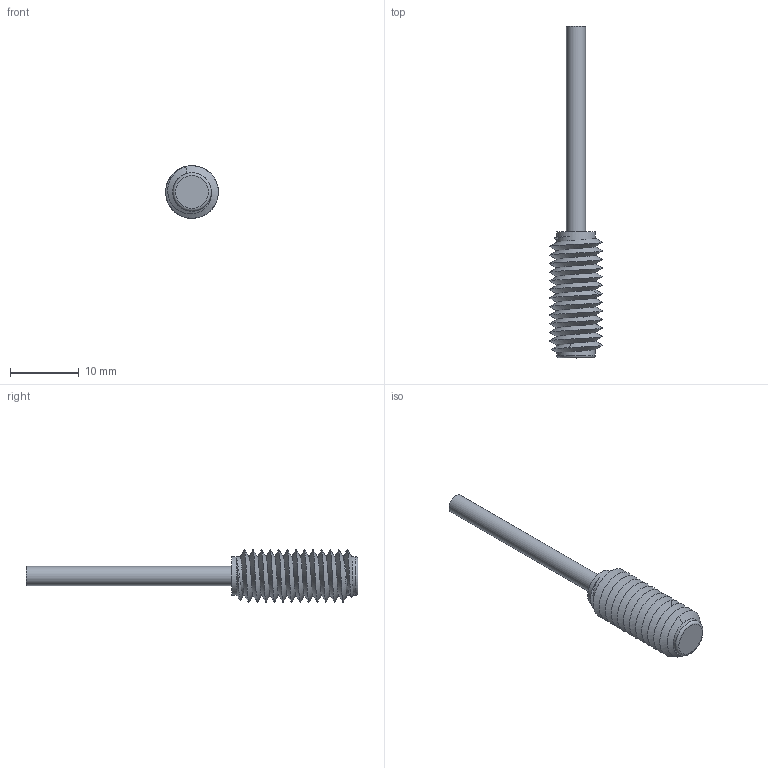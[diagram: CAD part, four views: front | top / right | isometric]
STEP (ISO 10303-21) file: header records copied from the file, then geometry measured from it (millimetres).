
FILE_DESCRIPTION(/* description */ (''),/* implementation_level */ '2;1');
FILE_NAME(/* name */ 'F:\HUAYIFENG\01)HUAYIFENG_宣传文件\01)HUAYIFENG_\X2\5BA34F2065874EF6\X0\_产品资料整合\03)产品3D文档\04)产品3D_接近系列_K12_2019\超小圆柱型接近传感器\PDE08.stp',/* time_stamp */ '2019-07-24T15:40:04+08:00',/* author */ ('fengjiarun'),/* organization */ (''),/* preprocessor_version */ 'ST-DEVELOPER v16.5',/* originating_system */ 'Autodesk Inventor 2017',/* authorisation */ '');
FILE_SCHEMA (('AUTOMOTIVE_DESIGN { 1 0 10303 214 3 1 1 }'));
Length unit declared in the file: millimetre
Products named in the file (1): PDE08
Bounding box: 7.68 x 48.4 x 7.68 mm (x, y, z)
Volume: 795.3 mm3; surface area: 1010.6 mm2
Topology: 1 solids, 1 shells, 30 faces, 81 edges, 54 vertices
Faces by surface type: cylinder 14, bspline 12, plane 3, torus 1
Full cylindrical faces by diameter (mm): 2.8 x1, 5.6 x13
Entity records: 3797 total; most frequent: CARTESIAN_POINT 3416, ORIENTED_EDGE 78, EDGE_CURVE 39, DIRECTION 34, VERTEX_POINT 28, B_SPLINE_CURVE_WITH_KNOTS 24, EDGE_LOOP 23, FACE_OUTER_BOUND 18
